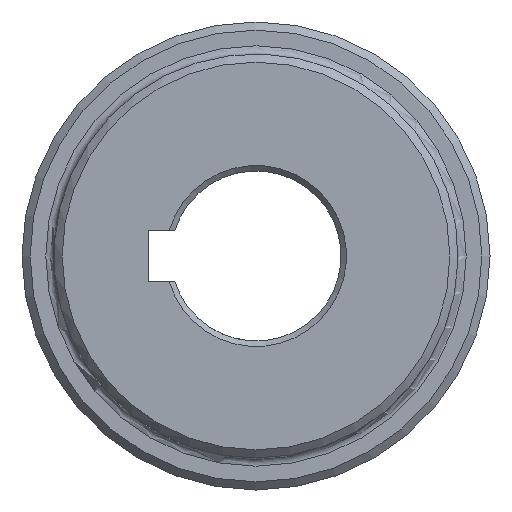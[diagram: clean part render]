
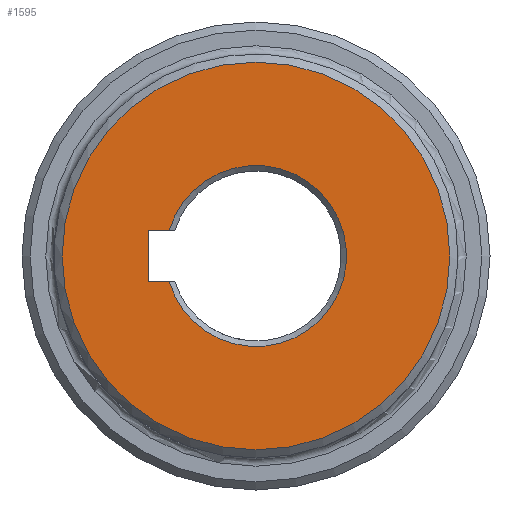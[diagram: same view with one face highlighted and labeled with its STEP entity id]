
A CAD part, left-side view. The second image highlights one B-rep face of the part: STEP entity #1595.
In plain terms, the highlighted planar face has unit normal (-1, 0, 0).
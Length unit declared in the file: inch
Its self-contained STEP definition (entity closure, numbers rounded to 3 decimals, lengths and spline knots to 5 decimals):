
#2 = DIRECTION ( 'NONE',  ( 1., 0., 0. ) ) ;
#127 = ORIENTED_EDGE ( 'NONE', *, *, #173, .F. ) ;
#129 = VECTOR ( 'NONE', #202, 39.37008 ) ;
#173 = EDGE_CURVE ( 'NONE', #2224, #1155, #201, .T. ) ;
#178 = AXIS2_PLACEMENT_3D ( 'NONE', #1254, #198, #683 ) ;
#198 = DIRECTION ( 'NONE',  ( -1., 0., 0. ) ) ;
#201 = LINE ( 'NONE', #1548, #1119 ) ;
#202 = DIRECTION ( 'NONE',  ( 0., -1., 0. ) ) ;
#211 = ORIENTED_EDGE ( 'NONE', *, *, #1509, .F. ) ;
#225 = CARTESIAN_POINT ( 'NONE',  ( 0., 0.63828, -0.1875 ) ) ;
#237 = VERTEX_POINT ( 'NONE', #1685 ) ;
#260 = CARTESIAN_POINT ( 'NONE',  ( 0., 0., 0. ) ) ;
#279 = CARTESIAN_POINT ( 'NONE',  ( 0., 0., 0. ) ) ;
#317 = CIRCLE ( 'NONE', #2283, 0.66525 ) ;
#339 = CARTESIAN_POINT ( 'NONE',  ( 0., 0.79175, -0.1875 ) ) ;
#445 = EDGE_CURVE ( 'NONE', #1155, #853, #2250, .T. ) ;
#477 = CARTESIAN_POINT ( 'NONE',  ( 0., 0., 0.1875 ) ) ;
#505 = ORIENTED_EDGE ( 'NONE', *, *, #1992, .T. ) ;
#596 = AXIS2_PLACEMENT_3D ( 'NONE', #260, #1857, #1195 ) ;
#604 = EDGE_CURVE ( 'NONE', #1797, #853, #317, .T. ) ;
#683 = DIRECTION ( 'NONE',  ( 0., 0., -1. ) ) ;
#742 = FACE_OUTER_BOUND ( 'NONE', #2299, .T. ) ;
#853 = VERTEX_POINT ( 'NONE', #225 ) ;
#1119 = VECTOR ( 'NONE', #1808, 39.37008 ) ;
#1155 = VERTEX_POINT ( 'NONE', #339 ) ;
#1156 = FACE_BOUND ( 'NONE', #2302, .T. ) ;
#1193 = CARTESIAN_POINT ( 'NONE',  ( 0., 0.63828, 0.1875 ) ) ;
#1195 = DIRECTION ( 'NONE',  ( 0., 0., -1. ) ) ;
#1219 = CARTESIAN_POINT ( 'NONE',  ( 0., 0., -0.1875 ) ) ;
#1254 = CARTESIAN_POINT ( 'NONE',  ( 0., 0., 0. ) ) ;
#1379 = VECTOR ( 'NONE', #1890, 39.37008 ) ;
#1480 = PLANE ( 'NONE',  #596 ) ;
#1509 = EDGE_CURVE ( 'NONE', #1797, #2224, #1561, .T. ) ;
#1548 = CARTESIAN_POINT ( 'NONE',  ( 0., 0.79175, -0.1875 ) ) ;
#1549 = DIRECTION ( 'NONE',  ( 0., 0., -1. ) ) ;
#1561 = LINE ( 'NONE', #477, #1379 ) ;
#1595 = ADVANCED_FACE ( 'NONE', ( #742, #1156 ), #1480, .F. ) ;
#1634 = CIRCLE ( 'NONE', #178, 1.425 ) ;
#1685 = CARTESIAN_POINT ( 'NONE',  ( 0., 0., -1.425 ) ) ;
#1692 = CARTESIAN_POINT ( 'NONE',  ( 0., 0.79175, 0.1875 ) ) ;
#1797 = VERTEX_POINT ( 'NONE', #1193 ) ;
#1808 = DIRECTION ( 'NONE',  ( 0., 0., -1. ) ) ;
#1857 = DIRECTION ( 'NONE',  ( 1., 0., 0. ) ) ;
#1890 = DIRECTION ( 'NONE',  ( 0., 1., 0. ) ) ;
#1992 = EDGE_CURVE ( 'NONE', #237, #237, #1634, .T. ) ;
#2069 = ORIENTED_EDGE ( 'NONE', *, *, #445, .F. ) ;
#2134 = ORIENTED_EDGE ( 'NONE', *, *, #604, .T. ) ;
#2224 = VERTEX_POINT ( 'NONE', #1692 ) ;
#2250 = LINE ( 'NONE', #1219, #129 ) ;
#2283 = AXIS2_PLACEMENT_3D ( 'NONE', #279, #2, #1549 ) ;
#2299 = EDGE_LOOP ( 'NONE', ( #505 ) ) ;
#2302 = EDGE_LOOP ( 'NONE', ( #211, #2134, #2069, #127 ) ) ;
